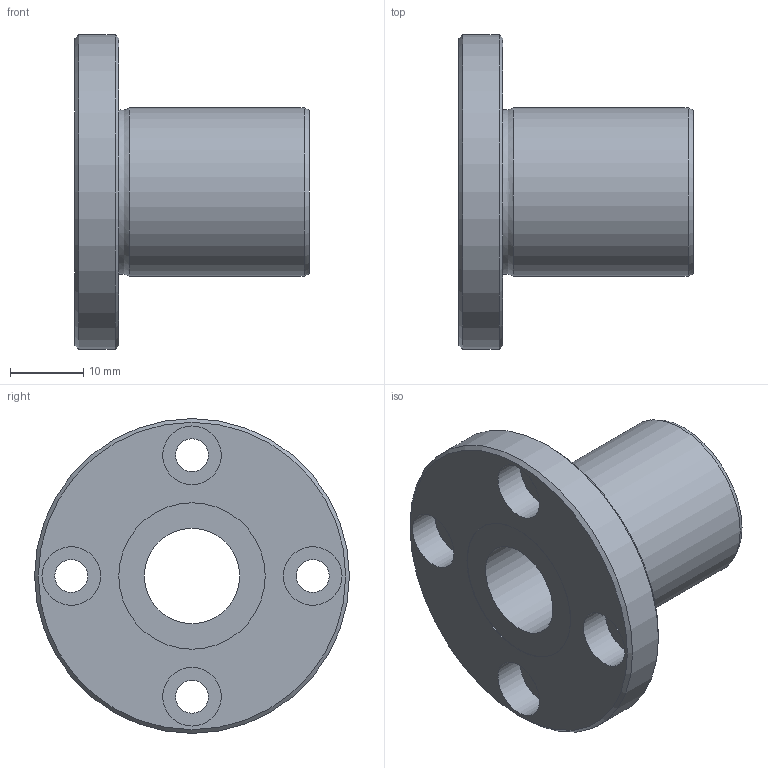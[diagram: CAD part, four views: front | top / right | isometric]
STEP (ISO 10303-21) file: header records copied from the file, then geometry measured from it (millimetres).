
FILE_DESCRIPTION((''),'2;1');
FILE_NAME('D:\製品 (図面)\カタログ用3D\リニアベアリング関連\STEP形式\LF\LF13.stp','2010-06-03T09:12:45',('Tsuchiya'),(''),'Autodesk Inventor 10','Autodesk Inventor 10','');
FILE_SCHEMA(('AUTOMOTIVE_DESIGN { 1 0 10303 214 1 1 1 1 }'));
Length unit declared in the file: millimetre
Products named in the file (1): LF13
Bounding box: 32 x 43 x 43 mm (x, y, z)
Volume: 14194.9 mm3; surface area: 6959.9 mm2
Topology: 1 solids, 1 shells, 26 faces, 47 edges, 30 vertices
Faces by surface type: cylinder 13, plane 9, cone 2, torus 1, bspline 1
Full cylindrical faces by diameter (mm): 4.5 x4, 8 x4, 13 x1, 20 x2, 23 x1, 43 x1
Entity records: 665 total; most frequent: CARTESIAN_POINT 149, DIRECTION 112, ORIENTED_EDGE 60, EDGE_LOOP 60, AXIS2_PLACEMENT_3D 56, FACE_BOUND 34, VERTEX_POINT 30, CIRCLE 30
